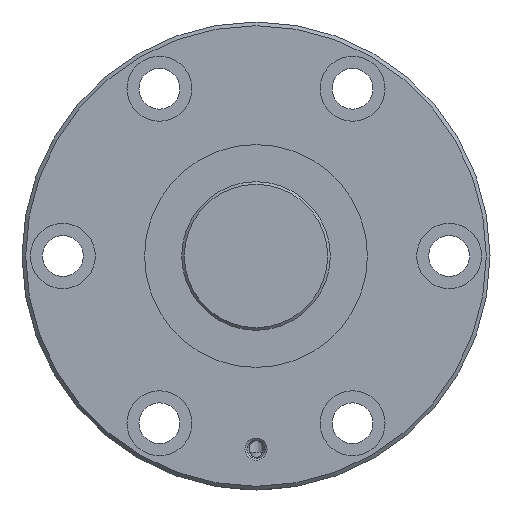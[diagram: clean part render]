
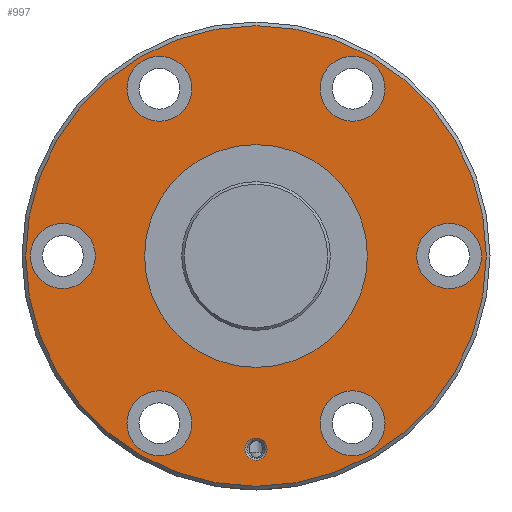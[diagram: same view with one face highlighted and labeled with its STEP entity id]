
A CAD part, left-side view. The second image highlights one B-rep face of the part: STEP entity #997.
In plain terms, the highlighted planar face has unit normal (-1, 0, 0).
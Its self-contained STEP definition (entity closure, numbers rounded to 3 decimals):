
#155=ORIENTED_EDGE('',*,*,#368,.T.);
#156=ORIENTED_EDGE('',*,*,#369,.T.);
#157=ORIENTED_EDGE('',*,*,#370,.T.);
#158=ORIENTED_EDGE('',*,*,#371,.T.);
#159=ORIENTED_EDGE('',*,*,#372,.T.);
#160=ORIENTED_EDGE('',*,*,#373,.T.);
#161=ORIENTED_EDGE('',*,*,#374,.T.);
#162=ORIENTED_EDGE('',*,*,#375,.T.);
#163=ORIENTED_EDGE('',*,*,#367,.F.);
#367=EDGE_CURVE('',#477,#477,#570,.T.);
#368=EDGE_CURVE('',#478,#478,#571,.T.);
#369=EDGE_CURVE('',#479,#479,#572,.F.);
#370=EDGE_CURVE('',#480,#480,#573,.T.);
#371=EDGE_CURVE('',#481,#481,#574,.T.);
#372=EDGE_CURVE('',#482,#482,#575,.T.);
#373=EDGE_CURVE('',#483,#483,#576,.T.);
#374=EDGE_CURVE('',#484,#484,#577,.T.);
#375=EDGE_CURVE('',#485,#485,#578,.T.);
#477=VERTEX_POINT('',#1668);
#478=VERTEX_POINT('',#1671);
#479=VERTEX_POINT('',#1673);
#480=VERTEX_POINT('',#1675);
#481=VERTEX_POINT('',#1677);
#482=VERTEX_POINT('',#1679);
#483=VERTEX_POINT('',#1681);
#484=VERTEX_POINT('',#1683);
#485=VERTEX_POINT('',#1685);
#570=CIRCLE('',#1111,62.);
#571=CIRCLE('',#1113,30.);
#572=CIRCLE('',#1114,8.75);
#573=CIRCLE('',#1115,3.);
#574=CIRCLE('',#1116,8.75);
#575=CIRCLE('',#1117,8.75);
#576=CIRCLE('',#1118,8.75);
#577=CIRCLE('',#1119,8.75);
#578=CIRCLE('',#1120,8.75);
#658=EDGE_LOOP('',(#155));
#659=EDGE_LOOP('',(#156));
#660=EDGE_LOOP('',(#157));
#661=EDGE_LOOP('',(#158));
#662=EDGE_LOOP('',(#159));
#663=EDGE_LOOP('',(#160));
#664=EDGE_LOOP('',(#161));
#665=EDGE_LOOP('',(#162));
#666=EDGE_LOOP('',(#163));
#818=FACE_BOUND('',#658,.T.);
#819=FACE_BOUND('',#659,.T.);
#820=FACE_BOUND('',#660,.T.);
#821=FACE_BOUND('',#661,.T.);
#822=FACE_BOUND('',#662,.T.);
#823=FACE_BOUND('',#663,.T.);
#824=FACE_BOUND('',#664,.T.);
#825=FACE_BOUND('',#665,.T.);
#826=FACE_BOUND('',#666,.T.);
#960=PLANE('',#1112);
#997=ADVANCED_FACE('',(#818,#819,#820,#821,#822,#823,#824,#825,#826),#960,
 .T.);
#1111=AXIS2_PLACEMENT_3D('',#1667,#1295,#1296);
#1112=AXIS2_PLACEMENT_3D('',#1669,#1297,#1298);
#1113=AXIS2_PLACEMENT_3D('',#1670,#1299,#1300);
#1114=AXIS2_PLACEMENT_3D('',#1672,#1301,#1302);
#1115=AXIS2_PLACEMENT_3D('',#1674,#1303,#1304);
#1116=AXIS2_PLACEMENT_3D('',#1676,#1305,#1306);
#1117=AXIS2_PLACEMENT_3D('',#1678,#1307,#1308);
#1118=AXIS2_PLACEMENT_3D('',#1680,#1309,#1310);
#1119=AXIS2_PLACEMENT_3D('',#1682,#1311,#1312);
#1120=AXIS2_PLACEMENT_3D('',#1684,#1313,#1314);
#1295=DIRECTION('',(1.,0.,0.));
#1296=DIRECTION('',(0.,0.,-1.));
#1297=DIRECTION('',(-1.,0.,0.));
#1298=DIRECTION('',(0.,0.,1.));
#1299=DIRECTION('',(1.,0.,0.));
#1300=DIRECTION('',(0.,0.,-1.));
#1301=DIRECTION('',(-1.,0.,0.));
#1302=DIRECTION('',(0.,0.,1.));
#1303=DIRECTION('',(1.,0.,0.));
#1304=DIRECTION('',(0.,0.,-1.));
#1305=DIRECTION('',(1.,0.,0.));
#1306=DIRECTION('',(0.,0.,-1.));
#1307=DIRECTION('',(1.,0.,0.));
#1308=DIRECTION('',(0.,0.,-1.));
#1309=DIRECTION('',(1.,0.,0.));
#1310=DIRECTION('',(0.,0.,-1.));
#1311=DIRECTION('',(1.,0.,0.));
#1312=DIRECTION('',(0.,0.,-1.));
#1313=DIRECTION('',(1.,0.,0.));
#1314=DIRECTION('',(0.,0.,-1.));
#1667=CARTESIAN_POINT('',(0.,0.,0.));
#1668=CARTESIAN_POINT('',(0.,0.,-62.));
#1669=CARTESIAN_POINT('',(0.,62.,0.));
#1670=CARTESIAN_POINT('',(0.,0.,0.));
#1671=CARTESIAN_POINT('',(0.,0.,-30.));
#1672=CARTESIAN_POINT('',(0.,52.,0.));
#1673=CARTESIAN_POINT('',(0.,52.,8.75));
#1674=CARTESIAN_POINT('',(0.,0.,-52.));
#1675=CARTESIAN_POINT('',(0.,0.,-55.));
#1676=CARTESIAN_POINT('',(0.,-52.,0.));
#1677=CARTESIAN_POINT('',(0.,-52.,-8.75));
#1678=CARTESIAN_POINT('',(0.,26.,45.033));
#1679=CARTESIAN_POINT('',(0.,26.,36.283));
#1680=CARTESIAN_POINT('',(0.,-26.,-45.033));
#1681=CARTESIAN_POINT('',(0.,-26.,-53.783));
#1682=CARTESIAN_POINT('',(0.,-26.,45.033));
#1683=CARTESIAN_POINT('',(0.,-26.,36.283));
#1684=CARTESIAN_POINT('',(0.,26.,-45.033));
#1685=CARTESIAN_POINT('',(0.,26.,-53.783));
